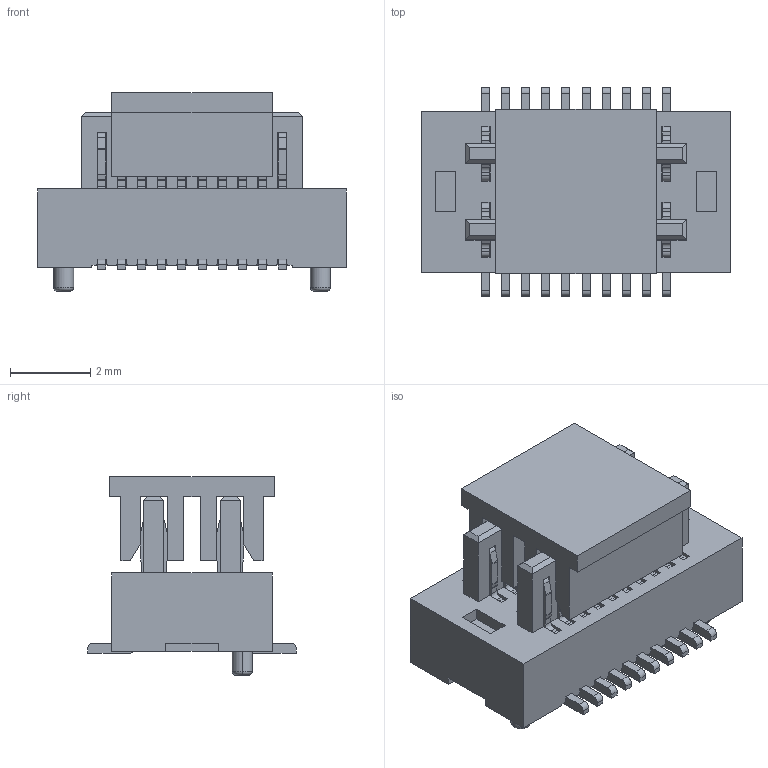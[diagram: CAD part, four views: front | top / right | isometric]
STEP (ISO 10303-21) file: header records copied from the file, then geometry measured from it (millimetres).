
FILE_DESCRIPTION(('CATIA V5 STEP Exchange'),'2;1');
FILE_NAME('F:\黄富鸿\板对板\PBB05\公座\H2.0\编带+盖\HC-PBB05-2-20-M-H2.0-G1-R-P-04（BTB0.5 双槽 公座 立贴 带柱 编带+盖）-HCTL.stp','2025-12-18T03:05:57+00:00',('none'),('none'),'CATIA Version 5 Release 20 GA (IN-10)','CATIA V5 STEP AP203','none');
FILE_SCHEMA(('CONFIG_CONTROL_DESIGN'));
Length unit declared in the file: millimetre
Products named in the file (1): Part2
Bounding box: 7.7 x 5.2 x 4.95 mm (x, y, z)
Volume: 87.9 mm3; surface area: 569.4 mm2
Topology: 22 solids, 22 shells, 1200 faces, 3638 edges, 2408 vertices
Faces by surface type: plane 792, cylinder 404, torus 4
Entity records: 35371 total; most frequent: ORIENTED_EDGE 7276, CARTESIAN_POINT 6548, DIRECTION 4080, EDGE_CURVE 3638, VECTOR 2742, LINE 2742, VERTEX_POINT 2408, EDGE_LOOP 1206
